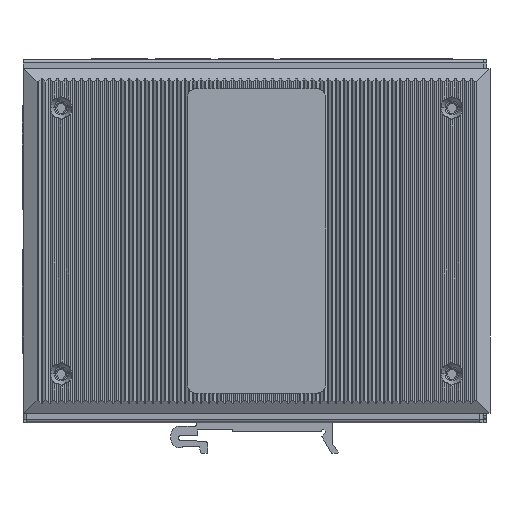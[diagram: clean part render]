
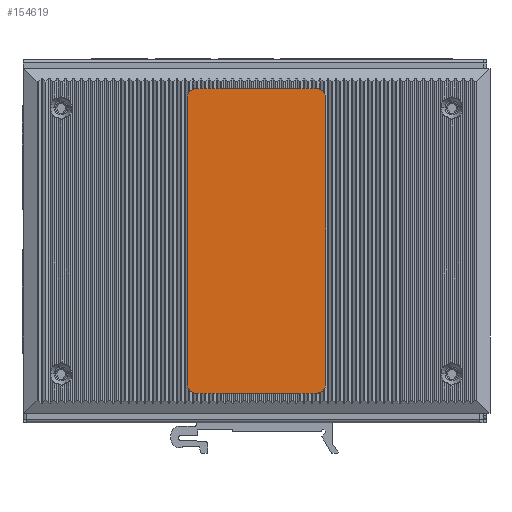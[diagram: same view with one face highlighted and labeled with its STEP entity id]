
A CAD part, front view. The second image highlights one B-rep face of the part: STEP entity #154619.
In plain terms, the highlighted planar face has unit normal (0, 1, 0).
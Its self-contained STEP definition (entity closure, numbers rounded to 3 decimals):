
#121235=DIRECTION('',(0.,0.,-1.));
#121236=VECTOR('',#121235,83.);
#121237=CARTESIAN_POINT('',(-19.5,-3.64,41.5));
#121238=LINE('',#121237,#121236);
#121239=CARTESIAN_POINT('',(-17.,-3.64,-41.5));
#121240=DIRECTION('',(0.,-1.,0.));
#121241=DIRECTION('',(-1.,0.,0.));
#121242=AXIS2_PLACEMENT_3D('',#121239,#121240,#121241);
#121244=DIRECTION('',(1.,0.,0.));
#121245=VECTOR('',#121244,35.);
#121246=CARTESIAN_POINT('',(-17.,-3.64,-44.));
#121247=LINE('',#121246,#121245);
#121248=CARTESIAN_POINT('',(18.,-3.64,-41.5));
#121249=DIRECTION('',(0.,-1.,0.));
#121250=DIRECTION('',(0.,0.,-1.));
#121251=AXIS2_PLACEMENT_3D('',#121248,#121249,#121250);
#121253=DIRECTION('',(0.,0.,1.));
#121254=VECTOR('',#121253,82.95);
#121255=CARTESIAN_POINT('',(20.5,-3.64,-41.5));
#121256=LINE('',#121255,#121254);
#121257=CARTESIAN_POINT('',(17.95,-3.64,41.45));
#121258=DIRECTION('',(0.,-1.,0.));
#121259=DIRECTION('',(1.,0.,0.));
#121260=AXIS2_PLACEMENT_3D('',#121257,#121258,#121259);
#121262=DIRECTION('',(-1.,0.,0.));
#121263=VECTOR('',#121262,34.95);
#121264=CARTESIAN_POINT('',(17.95,-3.64,44.));
#121265=LINE('',#121264,#121263);
#121266=CARTESIAN_POINT('',(-17.,-3.64,41.5));
#121267=DIRECTION('',(0.,-1.,0.));
#121268=DIRECTION('',(0.,0.,1.));
#121269=AXIS2_PLACEMENT_3D('',#121266,#121267,#121268);
#139842=CARTESIAN_POINT('',(-17.,-3.64,44.));
#139843=VERTEX_POINT('',#139842);
#139844=CARTESIAN_POINT('',(17.95,-3.64,44.));
#139845=VERTEX_POINT('',#139844);
#139859=CARTESIAN_POINT('',(20.5,-3.64,41.45));
#139860=VERTEX_POINT('',#139859);
#139861=CARTESIAN_POINT('',(20.5,-3.64,-41.5));
#139862=VERTEX_POINT('',#139861);
#139863=CARTESIAN_POINT('',(18.,-3.64,-44.));
#139864=VERTEX_POINT('',#139863);
#139865=CARTESIAN_POINT('',(-17.,-3.64,-44.));
#139866=VERTEX_POINT('',#139865);
#139867=CARTESIAN_POINT('',(-19.5,-3.64,-41.5));
#139868=VERTEX_POINT('',#139867);
#139869=CARTESIAN_POINT('',(-19.5,-3.64,41.5));
#139870=VERTEX_POINT('',#139869);
#154602=CARTESIAN_POINT('',(0.5,-3.64,0.));
#154603=DIRECTION('',(0.,1.,0.));
#154604=DIRECTION('',(1.,0.,0.));
#154605=AXIS2_PLACEMENT_3D('',#154602,#154603,#154604);
#154606=PLANE('',#154605);
#154608=ORIENTED_EDGE('',*,*,#154607,.T.);
#154609=ORIENTED_EDGE('',*,*,#154467,.T.);
#154610=ORIENTED_EDGE('',*,*,#154484,.T.);
#154611=ORIENTED_EDGE('',*,*,#154560,.T.);
#154612=ORIENTED_EDGE('',*,*,#154578,.T.);
#154613=ORIENTED_EDGE('',*,*,#154595,.T.);
#154614=ORIENTED_EDGE('',*,*,#153331,.T.);
#154616=ORIENTED_EDGE('',*,*,#154615,.T.);
#154617=EDGE_LOOP('',(#154608,#154609,#154610,#154611,#154612,#154613,#154614,
#154616));
#154618=FACE_OUTER_BOUND('',#154617,.F.);
#154619=ADVANCED_FACE('',(#154618),#154606,.T.);
#121243=CIRCLE('',#121242,2.5);
#121252=CIRCLE('',#121251,2.5);
#121261=CIRCLE('',#121260,2.55);
#121270=CIRCLE('',#121269,2.5);
#153331=EDGE_CURVE('',#139845,#139843,#121265,.T.);
#154467=EDGE_CURVE('',#139868,#139866,#121243,.T.);
#154484=EDGE_CURVE('',#139866,#139864,#121247,.T.);
#154560=EDGE_CURVE('',#139864,#139862,#121252,.T.);
#154578=EDGE_CURVE('',#139862,#139860,#121256,.T.);
#154595=EDGE_CURVE('',#139860,#139845,#121261,.T.);
#154607=EDGE_CURVE('',#139870,#139868,#121238,.T.);
#154615=EDGE_CURVE('',#139843,#139870,#121270,.T.);
